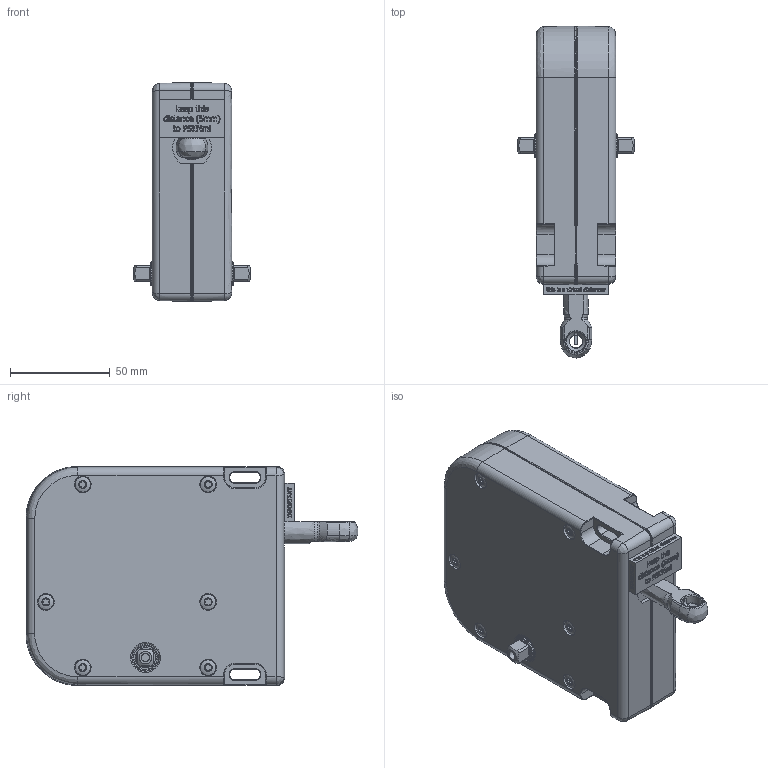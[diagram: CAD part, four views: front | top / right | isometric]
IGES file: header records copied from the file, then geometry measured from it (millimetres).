
Global section: file name: 2028815_B_PSEN ml DHM up r x.1; native system: Autodesk Inventor 2022; preprocessor: unknown; author: ES-STS; date: 20220315.104450; units: millimetre
Bounding box: 58.3 x 166.75 x 109.99 mm (x, y, z)
Volume: 548511.7 mm3; surface area: 53557.3 mm2
Topology: 2 solids, 2 shells, 2126 faces, 5712 edges, 3736 vertices
Faces by surface type: bspline 2126
